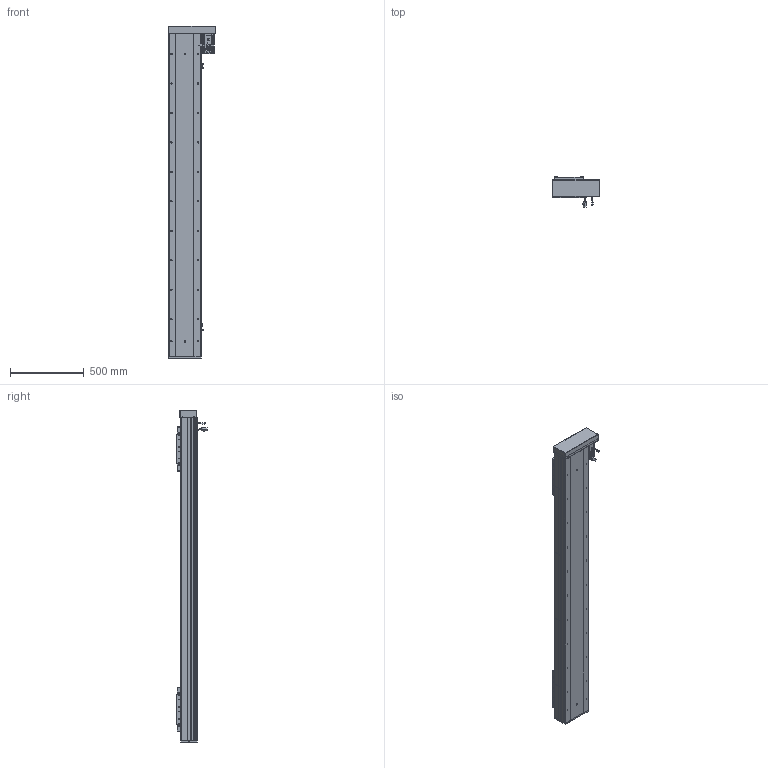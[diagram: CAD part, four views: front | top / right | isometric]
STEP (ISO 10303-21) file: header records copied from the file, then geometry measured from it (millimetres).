
FILE_DESCRIPTION (( 'STEP AP203' ), '1' );
FILE_NAME ('RY220F-L2525-800-RK-邧嶺.SLDASM_1750.step', '2022-08-06T08:19:50', ( '' ), ( '' ), 'SwSTEP 2.0', 'SolidWorks 2016', '' );
FILE_SCHEMA (( 'CONFIG_CONTROL_DESIGN' ));
Length unit declared in the file: millimetre
Products named in the file (15): 侐源滅袉蝶; RY220F蛌殏菁釱-800-邧嶺_1750; 怢湛750W_ECMA-CX0807ES; RY220F-祥凄詩湍-蛌殏-800_1750; 覜茼ん672; RY220F-蛌殏奻裔啣-800_1750; RY220酘衵殏萇儂欶; RY220F-詩湍揤踡輸; RY220F-滅鳥奻裔; RY220F-672覜茼んえ; 滅袉蝶18-24; RY220左右折电机安装板; RY220F臏賑釱25-32佪裝; RY220F-L2525-800-RK-邧嶺.SLDASM_1750; RY220F綴裔啣
Assembly tree (24 placements, depth 2):
  RY220F-L2525-800-RK-邧嶺.SLDASM_1750
    RY220F蛌殏菁釱-800-邧嶺_1750
    RY220F-蛌殏奻裔啣-800_1750  x2
    怢湛750W_ECMA-CX0807ES
    RY220F臏賑釱25-32佪裝  x2
    RY220F-滅鳥奻裔  x2
    滅袉蝶18-24  x3
    RY220F綴裔啣
    RY220F-祥凄詩湍-蛌殏-800_1750
    RY220F-詩湍揤踡輸  x2
    覜茼ん672  x3
    RY220F-672覜茼んえ  x2
    RY220左右折电机安装板
    RY220酘衵殏萇儂欶
    侐源滅袉蝶  x2
Bounding box: 317.5 x 205.27 x 2253 mm (x, y, z)
Volume: 19579002.8 mm3; surface area: 5206445.9 mm2
Topology: 25 solids, 25 shells, 2872 faces, 7796 edges, 4800 vertices
Faces by surface type: cylinder 1306, plane 1044, cone 451, bspline 45, sphere 16, torus 10
Entity records: 71524 total; most frequent: CARTESIAN_POINT 19109, ORIENTED_EDGE 10550, DIRECTION 10376, EDGE_CURVE 5275, AXIS2_PLACEMENT_3D 3718, VERTEX_POINT 3416, VECTOR 2940, LINE 2940
